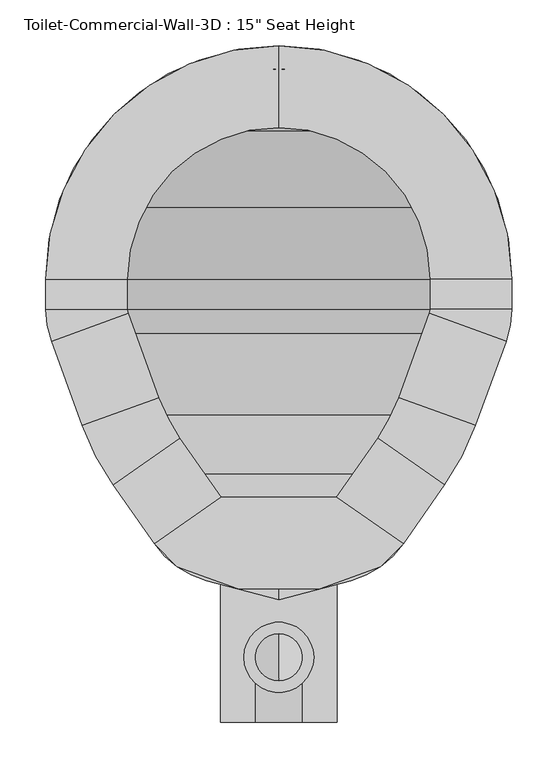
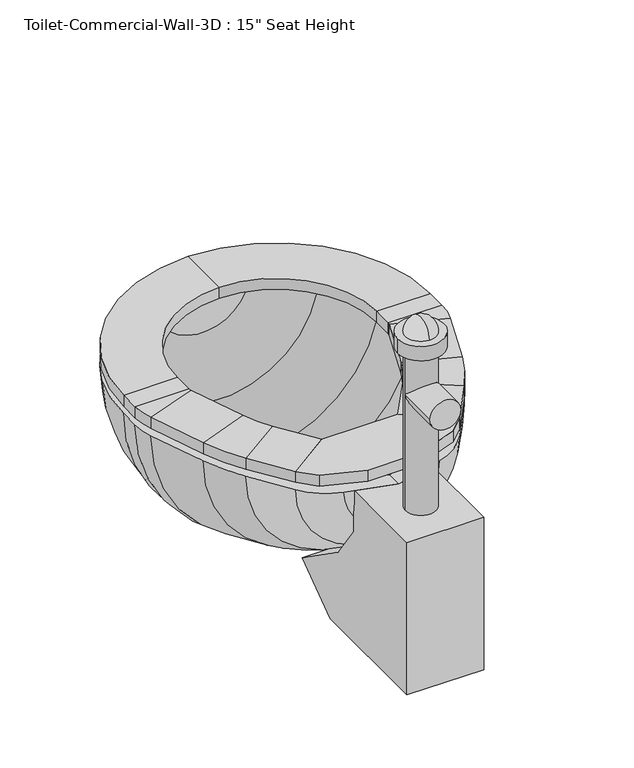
"""IFC4 building model written with IfcOpenShell, lengths in millimetres: flow terminal geometry."""

import ifcopenshell
import ifcopenshell.guid

model = None  # the IFC model being written
_history = None  # IfcOwnerHistory: only IFC2X3 demands one
_inside = {}  # id of a spatial element -> (the spatial element, [elements in it])
_under = {}  # id of a project, library or spatial element -> (it, [spatial elements below it])
_declared = {}  # id of a project -> (the project, [libraries it declares])
_typed = {}  # id of a type object -> (the type object, [elements of that type])
_made_of = {}  # id of a material, layer set ... -> (it, [elements and type objects made of it])


def new_model(schema):
    """Start an empty IFC model of exactly this schema.

    Asked for "IFC4X3", IfcOpenShell would pick the latest addendum, in which some entities
    have other attributes; the version numbers below select the first issue.
    IFC2X3 requires an IfcOwnerHistory on every rooted entity: one is made here for all.
    """
    global model, _history
    if schema == "IFC4X3":
        model = ifcopenshell.file(schema_version=(4, 3, 0, 0))
    else:
        model = ifcopenshell.file(schema=schema)
    _inside.clear()
    _under.clear()
    _declared.clear()
    _typed.clear()
    _made_of.clear()
    _history = None
    if model.schema == "IFC2X3":
        org = make("IfcOrganization", Name="unknown")
        user = make(
            "IfcPersonAndOrganization",
            ThePerson=make("IfcPerson", FamilyName="unknown"),
            TheOrganization=org,
        )
        app = make(
            "IfcApplication",
            ApplicationDeveloper=org,
            Version="unknown",
            ApplicationFullName="unknown",
            ApplicationIdentifier="unknown",
        )
        _history = make(
            "IfcOwnerHistory",
            OwningUser=user,
            OwningApplication=app,
            ChangeAction="ADDED",
            CreationDate=0,
        )
    return model


def make(cls, **values):
    """One entity of the class cls with the attributes given. An attribute that is None is left unset."""
    return model.create_entity(
        cls, **{name: value for name, value in values.items() if value is not None}
    )


def rooted(cls, **values):
    """An entity with a GlobalId (a new one), such as an element, a storey or a relation."""
    return make(cls, GlobalId=ifcopenshell.guid.new(), OwnerHistory=_history, **values)


def si_unit(unit_type, name, prefix=None):
    """IfcSIUnit, for example si_unit("LENGTHUNIT", "METRE", prefix="MILLI")."""
    return make("IfcSIUnit", UnitType=unit_type, Prefix=prefix, Name=name)


def assignment(units):
    """IfcUnitAssignment: the units of a project."""
    return None if units is None else make("IfcUnitAssignment", Units=units)


def point(xyz):
    """IfcCartesianPoint."""
    return None if xyz is None else make("IfcCartesianPoint", Coordinates=xyz)


def direction(xyz):
    """IfcDirection."""
    return None if xyz is None else make("IfcDirection", DirectionRatios=xyz)


def frame(location, z_axis=None, x_axis=None):
    """IfcAxis2Placement3D, a coordinate frame: its origin and axes. An axis left out is left unset."""
    return make(
        "IfcAxis2Placement3D",
        Location=point(location),
        Axis=direction(z_axis),
        RefDirection=direction(x_axis),
    )


def frame_2d(location, x_axis=None):
    """IfcAxis2Placement2D, a coordinate frame in the plane: its origin and x axis."""
    return make(
        "IfcAxis2Placement2D", Location=point(location), RefDirection=direction(x_axis)
    )


def origin():
    """The frame at (0, 0, 0) with its axes left unset."""
    return frame((0.0, 0.0, 0.0))


def place(relative_to, where):
    """IfcLocalPlacement: puts the frame where relative to a parent placement (None: the world)."""
    return make(
        "IfcLocalPlacement", PlacementRelTo=relative_to, RelativePlacement=where
    )


def context(
    kind, dimensions, precision=None, world=None, true_north=None, identifier=None
):
    """IfcGeometricRepresentationContext, for example the 3D "Model" context."""
    return make(
        "IfcGeometricRepresentationContext",
        ContextIdentifier=identifier,
        ContextType=kind,
        CoordinateSpaceDimension=dimensions,
        Precision=precision,
        WorldCoordinateSystem=world,
        TrueNorth=true_north,
    )


def project(units=None, contexts=None):
    """IfcProject with its units and contexts."""
    return rooted(
        "IfcProject",
        Name="project",
        RepresentationContexts=contexts,
        UnitsInContext=assignment(units),
    )


def spatial(cls, under=None, at=None, **own):
    """A site, building, storey or space (cls), placed at a placement, below another one or the project."""
    s = rooted(cls, ObjectPlacement=at, **own)
    if under is not None:
        _under.setdefault(under.id(), (under, []))[1].append(s)
    return s


def polyline(points):
    """IfcPolyline through the points."""
    return make("IfcPolyline", Points=[point(p) for p in points])


def circle_curve(where, radius):
    """IfcCircle in the frame where."""
    return make("IfcCircle", Position=where, Radius=radius)


def ellipse_curve(where, semi_axis1, semi_axis2):
    """IfcEllipse in the frame where."""
    return make(
        "IfcEllipse", Position=where, SemiAxis1=semi_axis1, SemiAxis2=semi_axis2
    )


def trimmed(basis, trim1, trim2, sense, master):
    """IfcTrimmedCurve: the piece of a basis curve between two trims."""
    return make(
        "IfcTrimmedCurve",
        BasisCurve=basis,
        Trim1=trim1,
        Trim2=trim2,
        SenseAgreement=sense,
        MasterRepresentation=master,
    )


def segment(curve, same_sense, transition):
    """IfcCompositeCurveSegment."""
    return make(
        "IfcCompositeCurveSegment",
        Transition=transition,
        SameSense=same_sense,
        ParentCurve=curve,
    )


def composite_curve(segments, self_intersect=None):
    """IfcCompositeCurve: segments joined end to end."""
    return make("IfcCompositeCurve", Segments=segments, SelfIntersect=self_intersect)


def outline(outer, holes=None, kind="AREA"):
    """IfcArbitraryClosedProfileDef: a profile drawn as a closed curve; with holes, ...WithVoids."""
    if holes is None:
        return make("IfcArbitraryClosedProfileDef", ProfileType=kind, OuterCurve=outer)
    return make(
        "IfcArbitraryProfileDefWithVoids",
        ProfileType=kind,
        OuterCurve=outer,
        InnerCurves=holes,
    )


def extrude(swept, where, along, depth):
    """IfcExtrudedAreaSolid: the profile swept, set in the frame where, extruded along a direction by depth."""
    return make(
        "IfcExtrudedAreaSolid",
        SweptArea=swept,
        Position=where,
        ExtrudedDirection=direction(along),
        Depth=depth,
    )


def shape(context_of_items, identifier, shape_type, items):
    """IfcShapeRepresentation: the items that make up one representation, for example the "Body"."""
    return make(
        "IfcShapeRepresentation",
        ContextOfItems=context_of_items,
        RepresentationIdentifier=identifier,
        RepresentationType=shape_type,
        Items=items,
    )


def source(mapping_origin, context_of_items, identifier, shape_type, items):
    """IfcRepresentationMap: a shape defined once, which mapped items show again and again."""
    return make(
        "IfcRepresentationMap",
        MappingOrigin=mapping_origin,
        MappedRepresentation=shape(context_of_items, identifier, shape_type, items),
    )


def transform(
    local_origin,
    x_axis=None,
    y_axis=None,
    z_axis=None,
    scale=None,
    scale2=None,
    scale3=None,
    uniform=True,
):
    """IfcCartesianTransformationOperator3D, or its non-uniform kind. x_axis, y_axis, z_axis: its Axis1, 2, 3."""
    if uniform:
        return make(
            "IfcCartesianTransformationOperator3D",
            Axis1=direction(x_axis),
            Axis2=direction(y_axis),
            LocalOrigin=point(local_origin),
            Scale=scale,
            Axis3=direction(z_axis),
        )
    return make(
        "IfcCartesianTransformationOperator3DnonUniform",
        Axis1=direction(x_axis),
        Axis2=direction(y_axis),
        LocalOrigin=point(local_origin),
        Scale=scale,
        Axis3=direction(z_axis),
        Scale2=scale2,
        Scale3=scale3,
    )


def mapped(mapping_source, mapping_target):
    """IfcMappedItem: shows the shape of a source again, moved by a transform."""
    return make(
        "IfcMappedItem", MappingSource=mapping_source, MappingTarget=mapping_target
    )


def made_of(thing, what):
    """Note that an element or type object is made of a material, layer set ...; save() writes the relation."""
    if what is not None:
        _made_of.setdefault(what.id(), (what, []))[1].append(thing)
    return thing


def element(
    cls,
    number,
    at=None,
    inside=None,
    cuts=None,
    type_object=None,
    material=None,
    context=None,
    identifier="Body",
    shape_type=None,
    held_by="IfcProductDefinitionShape",
    body=None,
    shapes=None,
    **own,
):
    """One element of the class cls, such as IfcWall. Its Tag is "e" and its number.

    at: its placement. inside: the storey or other place that contains it. cuts: it is an
    opening in that element (IfcRelVoidsElement). A single representation is given by context,
    identifier, shape_type and body (its items); several are given by shapes. held_by: the class
    of the entity that holds the representations. save() writes the other relations.
    """
    e = rooted(cls, Tag="e%d" % number, ObjectPlacement=at, **own)
    if body is not None:
        shapes = [shape(context, identifier, shape_type, body)]
    if shapes is not None:
        e.Representation = make(held_by, Representations=shapes)
    if inside is not None:
        _inside.setdefault(inside.id(), (inside, []))[1].append(e)
    if cuts is not None:
        rooted(
            "IfcRelVoidsElement", RelatingBuildingElement=cuts, RelatedOpeningElement=e
        )
    if type_object is not None:
        _typed.setdefault(type_object.id(), (type_object, []))[1].append(e)
    return made_of(e, material)


def aggregate(whole, parts):
    """IfcRelAggregates: a whole, such as a stair, and the parts it consists of."""
    return rooted("IfcRelAggregates", RelatingObject=whole, RelatedObjects=parts)


def save(model, path):
    """Write the relations noted so far, then the file.

    IfcRelAggregates (storeys below a building ...), IfcRelContainedInSpatialStructure (elements
    in a storey), IfcRelDefinesByType, IfcRelAssociatesMaterial and IfcRelDeclares: one each for
    every whole, place, type object, material and project.
    """
    for whole, parts in _under.values():
        aggregate(whole, parts)
    for where, things in _inside.values():
        rooted(
            "IfcRelContainedInSpatialStructure",
            RelatedElements=things,
            RelatingStructure=where,
        )
    for kind, things in _typed.values():
        rooted("IfcRelDefinesByType", RelatedObjects=things, RelatingType=kind)
    for what, things in _made_of.values():
        rooted("IfcRelAssociatesMaterial", RelatedObjects=things, RelatingMaterial=what)
    for by, libraries in _declared.values():
        rooted("IfcRelDeclares", RelatingContext=by, RelatedDefinitions=libraries)
    model.write(path)


def plane_surface(at):
    """IfcPlane: the flat surface through the origin of the frame at, square to its z axis."""
    return make("IfcPlane", Position=at)


def cylinder_surface(at, radius):
    """IfcCylindricalSurface: all points at the distance radius from the z axis of the frame at."""
    return make("IfcCylindricalSurface", Position=at, Radius=radius)


def revolved_surface(curve, axis_point, axis_direction):
    """IfcSurfaceOfRevolution: the curve turned about the line through axis_point along axis_direction."""
    return make(
        "IfcSurfaceOfRevolution",
        SweptCurve=make("IfcArbitraryOpenProfileDef", ProfileType="CURVE", Curve=curve),
        AxisPosition=make("IfcAxis1Placement", Location=point(axis_point), Axis=direction(axis_direction)),
    )


def advanced_brep(points, edges, surfaces, faces):
    """IfcAdvancedBrep: a solid bounded by faces that lie on surfaces and meet in shared edges.

    An edge is (start, end): straight between two places in points (the first is 0);
    or (start, end, curve); or (start, end, curve, False) where it runs against its curve.
    A face is (place in surfaces, loops), or (place, loops, False) where it looks against
    its surface's normal. A loop lists edges by number (the first is 1), with a minus sign
    where the edge is run from its end to its start. The first loop is the outer one.
    """
    corners = [point(p) for p in points]
    vertices = [make("IfcVertexPoint", VertexGeometry=c) for c in corners]
    made = []
    for start, end, *more in edges:
        made.append(
            make(
                "IfcEdgeCurve",
                EdgeStart=vertices[start],
                EdgeEnd=vertices[end],
                EdgeGeometry=more[0] if more else make("IfcPolyline", Points=[corners[start], corners[end]]),
                SameSense=more[1] if len(more) > 1 else True,
            )
        )
    hull = []
    for where, loops, *sense in faces:
        bounds = []
        for j, loop in enumerate(loops):
            ring = [make("IfcOrientedEdge", EdgeElement=made[abs(k) - 1], Orientation=k > 0) for k in loop]
            bounds.append(
                make(
                    "IfcFaceOuterBound" if j == 0 else "IfcFaceBound",
                    Bound=make("IfcEdgeLoop", EdgeList=ring),
                    Orientation=True,
                )
            )
        hull.append(make("IfcAdvancedFace", Bounds=bounds, FaceSurface=surfaces[where], SameSense=sense[0] if sense else True))
    return make("IfcAdvancedBrep", Outer=make("IfcClosedShell", CfsFaces=hull))


def flow_terminal_35d0ae41(model_context):
    return source(origin(), model_context, "Body", "SolidModel", [
        extrude(outline(polyline([(467.7541169, 375.2097495), (540.5767337, 324.2188043), (515.6262519, 299.2683226), (449.563909, 275.2235961), (360.2423986, 275.2235961), (294.1800557, 299.2683226), (269.229574, 324.2188043), (342.0521907, 375.2097495), (467.7541169, 375.2097495)])), frame((0.0, 0.0, 355.6), z_axis=(0.0, 0.0, 1.0), x_axis=(1.0, 0.0, 0.0)), (0.0, 0.0, 1.0), 19.05),
        advanced_brep(
        [(467.7541169, 375.2097495, 355.6), (540.5767337, 324.2188043, 355.6), (540.5767337, 324.2188043, 374.65), (467.7541169, 375.2097495, 374.65), (512.8583992, 439.6253403, 355.6), (585.6810159, 388.6343951, 355.6), (585.6810159, 388.6343951, 374.65), (512.8583992, 439.6253403, 374.65), (619.360053, 453.3312234, 355.6), (535.821379, 483.7368141, 355.6), (619.360053, 453.3312234, 374.65), (535.821379, 483.7368141, 374.65), (569.2372501, 575.5461654, 355.6), (652.7759241, 545.1405747, 355.6), (652.7759241, 545.1405747, 374.65), (569.2372501, 575.5461654, 374.65), (658.9031538, 579.8898212, 355.6), (570.0031538, 579.8898212, 355.6), (658.9031538, 579.8898212, 374.65), (570.0031538, 579.8898212, 374.65), (570.0031538, 612.775, 355.6), (658.9031538, 612.775, 355.6), (658.9031538, 612.775, 374.65), (570.0031538, 612.775, 374.65), (404.9031538, 866.775, 355.6), (404.9031538, 777.875, 355.6), (404.9031538, 866.775, 374.65), (404.9031538, 777.875, 374.65), (150.9031538, 612.775, 355.6), (239.8031538, 612.775, 355.6), (150.9031538, 612.775, 374.65), (239.8031538, 612.775, 374.65), (239.8031538, 579.8898212, 355.6), (150.9031538, 579.8898212, 355.6), (150.9031538, 579.8898212, 374.65), (239.8031538, 579.8898212, 374.65), (157.0303835, 545.1405747, 355.6), (240.5690575, 575.5461654, 355.6), (157.0303835, 545.1405747, 374.65), (240.5690575, 575.5461654, 374.65), (273.9849286, 483.7368141, 355.6), (190.4462546, 453.3312234, 355.6), (190.4462546, 453.3312234, 374.65), (273.9849286, 483.7368141, 374.65), (224.1252917, 388.6343951, 355.6), (296.9479084, 439.6253403, 355.6), (224.1252917, 388.6343951, 374.65), (296.9479084, 439.6253403, 374.65), (342.0521907, 375.2097495, 355.6), (342.0521907, 375.2097495, 374.65), (269.229574, 324.2188043, 374.65), (269.229574, 324.2188043, 355.6)],
        [
            (0, 1),
            (1, 2),
            (2, 3),
            (3, 0),
            (0, 4),
            (4, 5),
            (5, 1),
            (5, 6),
            (6, 2),
            (6, 7),
            (7, 3),
            (7, 4),
            (8, 5, circle_curve(frame((356.8099347, 548.8916514, 355.6), z_axis=(0.0, 0.0, -1.0), x_axis=(0.8191520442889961, -0.5735764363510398, 0.0)), 279.4)),
            (4, 9, circle_curve(frame((356.8099347, 548.8916514, 355.6), z_axis=(0.0, 0.0, 1.0), x_axis=(0.8191520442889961, -0.5735764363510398, 0.0)), 190.5)),
            (9, 8),
            (10, 6, circle_curve(frame((356.8099347, 548.8916514, 374.65), z_axis=(0.0, 0.0, -1.0), x_axis=(0.8191520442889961, -0.5735764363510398, 0.0)), 279.4)),
            (8, 10),
            (11, 7, circle_curve(frame((356.8099347, 548.8916514, 374.65), z_axis=(0.0, 0.0, -1.0), x_axis=(0.8191520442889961, -0.5735764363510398, 0.0)), 190.5)),
            (10, 11),
            (11, 9),
            (9, 12),
            (12, 13),
            (13, 8),
            (13, 14),
            (14, 10),
            (14, 15),
            (15, 11),
            (15, 12),
            (16, 13, circle_curve(frame((557.3031538, 579.8898212, 355.6), z_axis=(0.0, 0.0, -1.0), x_axis=(0.9396926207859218, -0.34202014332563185, 0.0)), 101.6)),
            (12, 17, circle_curve(frame((557.3031538, 579.8898212, 355.6), z_axis=(0.0, 0.0, 1.0), x_axis=(0.9396926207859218, -0.34202014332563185, 0.0)), 12.7)),
            (17, 16),
            (18, 14, circle_curve(frame((557.3031538, 579.8898212, 374.65), z_axis=(0.0, 0.0, -1.0), x_axis=(0.9396926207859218, -0.34202014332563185, 0.0)), 101.6)),
            (16, 18),
            (19, 15, circle_curve(frame((557.3031538, 579.8898212, 374.65), z_axis=(0.0, 0.0, -1.0), x_axis=(0.9396926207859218, -0.34202014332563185, 0.0)), 12.7)),
            (18, 19),
            (19, 17),
            (17, 20),
            (20, 21),
            (21, 16),
            (21, 22),
            (22, 18),
            (22, 23),
            (23, 19),
            (23, 20),
            (24, 21, circle_curve(frame((404.9031538, 612.775, 355.6), z_axis=(0.0, 0.0, -1.0), x_axis=(1.0, 0.0, 0.0)), 254.0)),
            (20, 25, circle_curve(frame((404.9031538, 612.775, 355.6), z_axis=(0.0, 0.0, 1.0), x_axis=(1.0, 0.0, 0.0)), 165.1)),
            (25, 24),
            (26, 22, circle_curve(frame((404.9031538, 612.775, 374.65), z_axis=(0.0, 0.0, -1.0), x_axis=(1.0, 0.0, 0.0)), 254.0)),
            (24, 26),
            (27, 23, circle_curve(frame((404.9031538, 612.775, 374.65), z_axis=(0.0, 0.0, -1.0), x_axis=(1.0, 0.0, 0.0)), 165.1)),
            (26, 27),
            (27, 25),
            (28, 24, circle_curve(frame((404.9031538, 612.775, 355.6), z_axis=(0.0, 0.0, -1.0), x_axis=(0.0, 1.0, 0.0)), 254.0)),
            (25, 29, circle_curve(frame((404.9031538, 612.775, 355.6), z_axis=(0.0, 0.0, 1.0), x_axis=(0.0, 1.0, 0.0)), 165.1)),
            (29, 28),
            (30, 26, circle_curve(frame((404.9031538, 612.775, 374.65), z_axis=(0.0, 0.0, -1.0), x_axis=(0.0, 1.0, 0.0)), 254.0)),
            (28, 30),
            (31, 27, circle_curve(frame((404.9031538, 612.775, 374.65), z_axis=(0.0, 0.0, -1.0), x_axis=(0.0, 1.0, 0.0)), 165.1)),
            (30, 31),
            (31, 29),
            (29, 32),
            (32, 33),
            (33, 28),
            (33, 34),
            (34, 30),
            (34, 35),
            (35, 31),
            (35, 32),
            (36, 33, circle_curve(frame((252.5031538, 579.8898212, 355.6), z_axis=(0.0, 0.0, -1.0), x_axis=(-1.0, 0.0, 0.0)), 101.6)),
            (32, 37, circle_curve(frame((252.5031538, 579.8898212, 355.6), z_axis=(0.0, 0.0, 1.0), x_axis=(-1.0, 0.0, 0.0)), 12.7)),
            (37, 36),
            (38, 34, circle_curve(frame((252.5031538, 579.8898212, 374.65), z_axis=(0.0, 0.0, -1.0), x_axis=(-1.0, 0.0, 0.0)), 101.6)),
            (36, 38),
            (39, 35, circle_curve(frame((252.5031538, 579.8898212, 374.65), z_axis=(0.0, 0.0, -1.0), x_axis=(-1.0, 0.0, 0.0)), 12.7)),
            (38, 39),
            (39, 37),
            (37, 40),
            (40, 41),
            (41, 36),
            (41, 42),
            (42, 38),
            (42, 43),
            (43, 39),
            (43, 40),
            (44, 41, circle_curve(frame((452.9963729, 548.8916514, 355.6), z_axis=(0.0, 0.0, -1.0), x_axis=(-0.9396926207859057, -0.3420201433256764, 0.0)), 279.4)),
            (40, 45, circle_curve(frame((452.9963729, 548.8916514, 355.6), z_axis=(0.0, 0.0, 1.0), x_axis=(-0.9396926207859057, -0.3420201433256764, 0.0)), 190.5)),
            (45, 44),
            (46, 42, circle_curve(frame((452.9963729, 548.8916514, 374.65), z_axis=(0.0, 0.0, -1.0), x_axis=(-0.9396926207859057, -0.3420201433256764, 0.0)), 279.4)),
            (44, 46),
            (47, 43, circle_curve(frame((452.9963729, 548.8916514, 374.65), z_axis=(0.0, 0.0, -1.0), x_axis=(-0.9396926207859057, -0.3420201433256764, 0.0)), 190.5)),
            (46, 47),
            (47, 45),
            (48, 49),
            (49, 50),
            (50, 51),
            (51, 48),
            (45, 48),
            (51, 44),
            (50, 46),
            (49, 47),
        ],
        [
            plane_surface(frame((540.5767337, 324.2188043, 437.2995365), z_axis=(-0.573576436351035, -0.8191520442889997, 0.0), x_axis=(0.8191520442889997, -0.573576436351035, 0.0))),
            plane_surface(frame((467.7541169, 375.2097495, 355.6), z_axis=(0.0, 0.0, -1.0), x_axis=(0.5735764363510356, 0.8191520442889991, 0.0))),
            plane_surface(frame((540.5767337, 324.2188043, 355.6), z_axis=(0.8191520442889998, -0.5735764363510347, 0.0), x_axis=(0.5735764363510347, 0.8191520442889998, 0.0))),
            plane_surface(frame((540.5767337, 324.2188043, 374.65), z_axis=(0.0, 0.0, 1.0), x_axis=(0.5735764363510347, 0.8191520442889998, 0.0))),
            plane_surface(frame((467.7541169, 375.2097495, 374.65), z_axis=(-0.8191520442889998, 0.5735764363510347, 0.0), x_axis=(0.5735764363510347, 0.8191520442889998, 0.0))),
            plane_surface(frame((356.8099347, 548.8916514, 355.6), z_axis=(0.0, 0.0, -1.0000000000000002), x_axis=(0.8191520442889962, -0.5735764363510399, 0.0))),
            cylinder_surface(frame((356.8099347, 548.8916514, 342.9), z_axis=(0.0, 0.0, 1.0), x_axis=(0.8191520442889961, -0.5735764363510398, 0.0)), 279.4),
            plane_surface(frame((356.8099347, 548.8916514, 374.65), z_axis=(0.0, 0.0, 1.0000000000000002), x_axis=(0.8191520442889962, -0.5735764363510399, 0.0))),
            revolved_surface(polyline([(512.8583991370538, 439.6253402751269, 374.65), (512.8583991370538, 439.6253402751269, 355.6)]), (356.8099347, 548.8916514, 342.9), (0.0, 0.0, 1.0)),
            plane_surface(frame((535.821379, 483.7368141, 355.6), z_axis=(0.0, 0.0, -1.0), x_axis=(0.3420201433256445, 0.9396926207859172, 0.0))),
            plane_surface(frame((619.360053, 453.3312234, 355.6), z_axis=(0.9396926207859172, -0.3420201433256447, 0.0), x_axis=(0.3420201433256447, 0.9396926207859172, 0.0))),
            plane_surface(frame((619.360053, 453.3312234, 374.65), z_axis=(0.0, 0.0, 1.0000000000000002), x_axis=(0.3420201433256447, 0.9396926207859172, 0.0))),
            plane_surface(frame((535.821379, 483.7368141, 374.65), z_axis=(-0.9396926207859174, 0.3420201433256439, 0.0), x_axis=(0.3420201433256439, 0.9396926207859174, 0.0))),
            plane_surface(frame((557.3031538, 579.8898212, 355.6), z_axis=(0.0, 0.0, -1.0000000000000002), x_axis=(0.9396926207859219, -0.3420201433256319, 0.0))),
            cylinder_surface(frame((557.3031538, 579.8898212, 342.9), z_axis=(0.0, 0.0, 1.0), x_axis=(0.9396926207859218, -0.34202014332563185, 0.0)), 101.6),
            plane_surface(frame((557.3031538, 579.8898212, 374.65), z_axis=(0.0, 0.0, 1.0000000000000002), x_axis=(0.9396926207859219, -0.3420201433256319, 0.0))),
            revolved_surface(polyline([(569.2372500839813, 575.5461653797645, 374.65), (569.2372500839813, 575.5461653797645, 355.6)]), (557.3031538, 579.8898212, 342.9), (0.0, 0.0, 1.0)),
            plane_surface(frame((570.0031538, 579.8898212, 355.6), z_axis=(0.0, 0.0, -1.0), x_axis=(0.0, 1.0, 0.0))),
            plane_surface(frame((658.9031538, 579.8898212, 355.6), z_axis=(1.0, 0.0, 0.0), x_axis=(0.0, 1.0, 0.0))),
            plane_surface(frame((658.9031538, 579.8898212, 374.65), z_axis=(0.0, 0.0, 1.0), x_axis=(0.0, 1.0, 0.0))),
            plane_surface(frame((570.0031538, 579.8898212, 374.65), z_axis=(-1.0, 0.0, 0.0), x_axis=(0.0, 1.0, 0.0))),
            plane_surface(frame((404.9031538, 612.775, 355.6), z_axis=(0.0, 0.0, -1.0), x_axis=(1.0, 0.0, 0.0))),
            cylinder_surface(frame((404.9031538, 612.775, 342.9), z_axis=(0.0, 0.0, 1.0), x_axis=(1.0, 0.0, 0.0)), 254.0),
            plane_surface(frame((404.9031538, 612.775, 374.65), z_axis=(0.0, 0.0, 1.0), x_axis=(1.0, 0.0, 0.0))),
            revolved_surface(polyline([(570.0031538, 612.775, 374.65), (570.0031538, 612.775, 355.6)]), (404.9031538, 612.775, 342.9), (0.0, 0.0, 1.0)),
            plane_surface(frame((404.9031538, 612.775, 355.6), z_axis=(0.0, 0.0, -1.0), x_axis=(0.0, 1.0, 0.0))),
            cylinder_surface(frame((404.9031538, 612.775, 342.9), z_axis=(0.0, 0.0, 1.0), x_axis=(0.0, 1.0, 0.0)), 254.0),
            plane_surface(frame((404.9031538, 612.775, 374.65), z_axis=(0.0, 0.0, 1.0), x_axis=(0.0, 1.0, 0.0))),
            revolved_surface(polyline([(404.9031538, 777.875, 374.65), (404.9031538, 777.875, 355.6)]), (404.9031538, 612.775, 342.9), (0.0, 0.0, 1.0)),
            plane_surface(frame((239.8031538, 612.775, 355.6), z_axis=(0.0, 0.0, -1.0), x_axis=(0.0, -1.0, 0.0))),
            plane_surface(frame((150.9031538, 612.775, 355.6), z_axis=(-1.0, 0.0, 0.0), x_axis=(0.0, -1.0, 0.0))),
            plane_surface(frame((150.9031538, 612.775, 374.65), z_axis=(0.0, 0.0, 1.0), x_axis=(0.0, -1.0, 0.0))),
            plane_surface(frame((239.8031538, 612.775, 374.65), z_axis=(1.0, 0.0, 0.0), x_axis=(0.0, -1.0, 0.0))),
            plane_surface(frame((252.5031538, 579.8898212, 355.6), z_axis=(0.0, 0.0, -1.0), x_axis=(-1.0, 0.0, 0.0))),
            cylinder_surface(frame((252.5031538, 579.8898212, 342.9), z_axis=(0.0, 0.0, 1.0), x_axis=(-1.0, 0.0, 0.0)), 101.6),
            plane_surface(frame((252.5031538, 579.8898212, 374.65), z_axis=(0.0, 0.0, 1.0), x_axis=(-1.0, 0.0, 0.0))),
            revolved_surface(polyline([(239.80315380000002, 579.8898212, 374.65), (239.80315380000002, 579.8898212, 355.6)]), (252.5031538, 579.8898212, 342.9), (0.0, 0.0, 1.0)),
            plane_surface(frame((240.5690575, 575.5461654, 355.6), z_axis=(0.0, 0.0, -1.0000000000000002), x_axis=(0.3420201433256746, -0.9396926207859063, 0.0))),
            plane_surface(frame((157.0303835, 545.1405747, 355.6), z_axis=(-0.9396926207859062, -0.3420201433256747, 0.0), x_axis=(0.3420201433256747, -0.9396926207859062, 0.0))),
            plane_surface(frame((157.0303835, 545.1405747, 374.65), z_axis=(0.0, 0.0, 1.0), x_axis=(0.3420201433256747, -0.9396926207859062, 0.0))),
            plane_surface(frame((240.5690575, 575.5461654, 374.65), z_axis=(0.9396926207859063, 0.3420201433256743, 0.0), x_axis=(0.3420201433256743, -0.9396926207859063, 0.0))),
            plane_surface(frame((452.9963729, 548.8916514, 355.6), z_axis=(0.0, 0.0, -1.0), x_axis=(-0.9396926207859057, -0.3420201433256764, 0.0))),
            cylinder_surface(frame((452.9963729, 548.8916514, 342.9), z_axis=(0.0, 0.0, 1.0), x_axis=(-0.9396926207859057, -0.3420201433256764, 0.0)), 279.4),
            plane_surface(frame((452.9963729, 548.8916514, 374.65), z_axis=(0.0, 0.0, 1.0), x_axis=(-0.9396926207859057, -0.3420201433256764, 0.0))),
            revolved_surface(polyline([(273.9849286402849, 483.73681409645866, 374.65), (273.9849286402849, 483.73681409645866, 355.6)]), (452.9963729, 548.8916514, 342.9), (0.0, 0.0, 1.0)),
            plane_surface(frame((269.229574, 324.2188043, 248.5004635), z_axis=(0.573576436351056, -0.8191520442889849, 0.0), x_axis=(0.8191520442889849, 0.573576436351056, 0.0))),
            plane_surface(frame((296.9479084, 439.6253403, 355.6), z_axis=(0.0, 0.0, -1.0), x_axis=(0.573576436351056, -0.8191520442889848, 0.0))),
            plane_surface(frame((224.1252917, 388.6343951, 355.6), z_axis=(-0.8191520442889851, -0.5735764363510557, 0.0), x_axis=(0.5735764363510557, -0.8191520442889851, 0.0))),
            plane_surface(frame((224.1252917, 388.6343951, 374.65), z_axis=(0.0, 0.0, 1.0), x_axis=(0.5735764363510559, -0.8191520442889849, 0.0))),
            plane_surface(frame((296.9479084, 439.6253403, 374.65), z_axis=(0.8191520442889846, 0.5735764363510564, 0.0), x_axis=(0.5735764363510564, -0.8191520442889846, 0.0))),
        ],
        [
            (0, [[1, 2, 3, 4]]),
            (1, [[-1, 5, 6, 7]]),
            (2, [[-2, -7, 8, 9]]),
            (3, [[-3, -9, 10, 11]]),
            (4, [[-4, -11, 12, -5]]),
            (5, [[13, -6, 14, 15]]),
            (6, [[16, -8, -13, 17]]),
            (7, [[18, -10, -16, 19]]),
            (8, [[-14, -12, -18, 20]]),
            (9, [[-15, 21, 22, 23]]),
            (10, [[-17, -23, 24, 25]]),
            (11, [[-19, -25, 26, 27]]),
            (12, [[-20, -27, 28, -21]]),
            (13, [[29, -22, 30, 31]]),
            (14, [[32, -24, -29, 33]]),
            (15, [[34, -26, -32, 35]]),
            (16, [[-30, -28, -34, 36]]),
            (17, [[-31, 37, 38, 39]]),
            (18, [[-33, -39, 40, 41]]),
            (19, [[-35, -41, 42, 43]]),
            (20, [[-36, -43, 44, -37]]),
            (21, [[45, -38, 46, 47]]),
            (22, [[48, -40, -45, 49]]),
            (23, [[50, -42, -48, 51]]),
            (24, [[-46, -44, -50, 52]]),
            (25, [[53, -47, 54, 55]]),
            (26, [[56, -49, -53, 57]]),
            (27, [[58, -51, -56, 59]]),
            (28, [[-54, -52, -58, 60]]),
            (29, [[-55, 61, 62, 63]]),
            (30, [[-57, -63, 64, 65]]),
            (31, [[-59, -65, 66, 67]]),
            (32, [[-60, -67, 68, -61]]),
            (33, [[69, -62, 70, 71]]),
            (34, [[72, -64, -69, 73]]),
            (35, [[74, -66, -72, 75]]),
            (36, [[-70, -68, -74, 76]]),
            (37, [[-71, 77, 78, 79]]),
            (38, [[-73, -79, 80, 81]]),
            (39, [[-75, -81, 82, 83]]),
            (40, [[-76, -83, 84, -77]]),
            (41, [[85, -78, 86, 87]]),
            (42, [[88, -80, -85, 89]]),
            (43, [[90, -82, -88, 91]]),
            (44, [[-86, -84, -90, 92]]),
            (45, [[93, 94, 95, 96]]),
            (46, [[-87, 97, -96, 98]]),
            (47, [[-89, -98, -95, 99]]),
            (48, [[-91, -99, -94, 100]]),
            (49, [[-92, -100, -93, -97]]),
        ],
    ),
        advanced_brep(
        [(491.7762702, 851.4569257, 342.9), (404.9031538, 866.775, 342.9), (404.9031538, 841.375, 342.9), (483.0889586, 827.5887331, 342.9), (566.547764, 774.4196102, 342.9), (619.7168869, 690.9608048, 342.9), (633.5031538, 612.775, 342.9), (633.5031538, 579.8898212, 342.9), (628.9077315, 553.8278863, 342.9), (596.6355667, 465.1608422, 342.9), (562.9565296, 400.4640139, 342.9), (525.0728964, 346.3605786, 342.9), (468.1430637, 306.4978806, 342.9), (404.9031538, 289.5527978, 342.9), (404.9031538, 263.2567829, 342.9), (483.6469009, 284.3561063, 342.9), (540.5767337, 324.2188043, 342.9), (585.6810159, 388.6343951, 342.9), (619.360053, 453.3312234, 342.9), (652.7759241, 545.1405747, 342.9), (658.9031538, 579.8898212, 342.9), (658.9031538, 612.775, 342.9), (643.5850795, 699.6481164, 342.9), (584.5082762, 792.3801224, 342.9), (318.0300374, 851.4569257, 342.9), (225.2980314, 792.3801224, 342.9), (166.2212281, 699.6481164, 342.9), (150.9031538, 612.775, 342.9), (150.9031538, 579.8898212, 342.9), (157.0303835, 545.1405747, 342.9), (190.4462546, 453.3312234, 342.9), (224.1252917, 388.6343951, 342.9), (269.229574, 324.2188043, 342.9), (326.1594067, 284.3561063, 342.9), (341.663244, 306.4978806, 342.9), (284.7334112, 346.3605786, 342.9), (246.849778, 400.4640139, 342.9), (213.1707409, 465.1608422, 342.9), (180.8985761, 553.8278863, 342.9), (176.3031538, 579.8898212, 342.9), (176.3031538, 612.775, 342.9), (190.0894207, 690.9608048, 342.9), (243.2585436, 774.4196102, 342.9), (326.7173491, 827.5887331, 342.9)],
        [
            (0, 1, circle_curve(frame((404.9031538, 612.775, 342.9), z_axis=(0.0, 0.0, 1.0), x_axis=(1.0, 0.0, 0.0)), 254.0)),
            (1, 2),
            (2, 3, circle_curve(frame((404.9031538, 612.775, 342.9), z_axis=(0.0, 0.0, -1.0), x_axis=(1.0, 0.0, 0.0)), 228.6)),
            (3, 4, circle_curve(frame((404.9031538, 612.775, 342.9), z_axis=(0.0, 0.0, -1.0), x_axis=(1.0, 0.0, 0.0)), 228.6)),
            (4, 5, circle_curve(frame((404.9031538, 612.775, 342.9), z_axis=(0.0, 0.0, -1.0), x_axis=(1.0, 0.0, 0.0)), 228.6)),
            (5, 6, circle_curve(frame((404.9031538, 612.775, 342.9), z_axis=(0.0, 0.0, -1.0), x_axis=(1.0, 0.0, 0.0)), 228.6)),
            (6, 7),
            (7, 8, circle_curve(frame((557.3031538, 579.8898212, 342.9), z_axis=(0.0, 0.0, -1.0), x_axis=(1.0, 0.0, 0.0)), 76.2)),
            (8, 9),
            (9, 10, circle_curve(frame((334.0854485, 560.7212703, 342.9), z_axis=(0.0, 0.0, -1.0), x_axis=(1.0, 0.0, 0.0)), 279.4)),
            (10, 11),
            (11, 12, circle_curve(frame((441.8470487, 404.6359446, 342.9), z_axis=(0.0, 0.0, -1.0), x_axis=(1.0, 0.0, 0.0)), 101.6)),
            (12, 13),
            (13, 14),
            (14, 15),
            (15, 16, circle_curve(frame((457.350886, 382.4941703, 342.9), z_axis=(0.0, 0.0, 1.0), x_axis=(1.0, 0.0, 0.0)), 101.6)),
            (16, 17),
            (17, 18, circle_curve(frame((356.8099347, 548.8916514, 342.9), z_axis=(0.0, 0.0, 1.0), x_axis=(1.0, 0.0, 0.0)), 279.4)),
            (18, 19),
            (19, 20, circle_curve(frame((557.3031538, 579.8898212, 342.9), z_axis=(0.0, 0.0, 1.0), x_axis=(1.0, 0.0, 0.0)), 101.6)),
            (20, 21),
            (21, 22, circle_curve(frame((404.9031538, 612.775, 342.9), z_axis=(0.0, 0.0, 1.0), x_axis=(1.0, 0.0, 0.0)), 254.0)),
            (22, 23, circle_curve(frame((404.9031538, 612.775, 342.9), z_axis=(0.0, 0.0, 1.0), x_axis=(1.0, 0.0, 0.0)), 254.0)),
            (23, 0, circle_curve(frame((404.9031538, 612.775, 342.9), z_axis=(0.0, 0.0, 1.0), x_axis=(1.0, 0.0, 0.0)), 254.0)),
            (24, 25, circle_curve(frame((404.9031538, 612.775, 342.9), z_axis=(0.0, 0.0, 1.0), x_axis=(-1.0, 0.0, 0.0)), 254.0)),
            (25, 26, circle_curve(frame((404.9031538, 612.775, 342.9), z_axis=(0.0, 0.0, 1.0), x_axis=(-1.0, 0.0, 0.0)), 254.0)),
            (26, 27, circle_curve(frame((404.9031538, 612.775, 342.9), z_axis=(0.0, 0.0, 1.0), x_axis=(-1.0, 0.0, 0.0)), 254.0)),
            (27, 28),
            (28, 29, circle_curve(frame((252.5031538, 579.8898212, 342.9), z_axis=(0.0, 0.0, 1.0), x_axis=(-1.0, 0.0, 0.0)), 101.6)),
            (29, 30),
            (30, 31, circle_curve(frame((452.9963729, 548.8916514, 342.9), z_axis=(0.0, 0.0, 1.0), x_axis=(-1.0, 0.0, 0.0)), 279.4)),
            (31, 32),
            (32, 33, circle_curve(frame((352.4554217, 382.4941703, 342.9), z_axis=(0.0, 0.0, 1.0), x_axis=(-1.0, 0.0, 0.0)), 101.6)),
            (33, 14),
            (13, 34),
            (34, 35, circle_curve(frame((367.9592589, 404.6359446, 342.9), z_axis=(0.0, 0.0, -1.0), x_axis=(-1.0, 0.0, 0.0)), 101.6)),
            (35, 36),
            (36, 37, circle_curve(frame((475.7208592, 560.7212703, 342.9), z_axis=(0.0, 0.0, -1.0), x_axis=(-1.0, 0.0, 0.0)), 279.4)),
            (37, 38),
            (38, 39, circle_curve(frame((252.5031538, 579.8898212, 342.9), z_axis=(0.0, 0.0, -1.0), x_axis=(-1.0, 0.0, 0.0)), 76.2)),
            (39, 40),
            (40, 41, circle_curve(frame((404.9031538, 612.775, 342.9), z_axis=(0.0, 0.0, -1.0), x_axis=(-1.0, 0.0, 0.0)), 228.6)),
            (41, 42, circle_curve(frame((404.9031538, 612.775, 342.9), z_axis=(0.0, 0.0, -1.0), x_axis=(-1.0, 0.0, 0.0)), 228.6)),
            (42, 43, circle_curve(frame((404.9031538, 612.775, 342.9), z_axis=(0.0, 0.0, -1.0), x_axis=(-1.0, 0.0, 0.0)), 228.6)),
            (43, 2, circle_curve(frame((404.9031538, 612.775, 342.9), z_axis=(0.0, 0.0, -1.0), x_axis=(-1.0, 0.0, 0.0)), 228.6)),
            (1, 24, circle_curve(frame((404.9031538, 612.775, 342.9), z_axis=(0.0, 0.0, 1.0), x_axis=(-1.0, 0.0, 0.0)), 254.0)),
            (0, 24, circle_curve(frame((404.9031538, 851.4569257, 342.9), z_axis=(0.0, 1.0, 0.0), x_axis=(1.0, 0.0, 0.0)), 86.8731164)),
            (43, 3, circle_curve(frame((404.9031538, 827.5887331, 342.9), z_axis=(0.0, -1.0, 0.0), x_axis=(1.0, 0.0, 0.0)), 78.1858048)),
            (42, 4, circle_curve(frame((404.9031538, 774.4196102, 342.9), z_axis=(0.0, -1.0, 0.0), x_axis=(1.0, 0.0, 0.0)), 161.6446102)),
            (41, 5, circle_curve(frame((404.9031538, 690.9608048, 342.9), z_axis=(0.0, -1.0, 0.0), x_axis=(1.0, 0.0, 0.0)), 214.8137331)),
            (40, 6, circle_curve(frame((404.9031538, 612.775, 342.9), z_axis=(0.0, -1.0, 0.0), x_axis=(1.0, 0.0, 0.0)), 228.6)),
            (39, 7, circle_curve(frame((404.9031538, 579.8898212, 342.9), z_axis=(0.0, -1.0, 0.0), x_axis=(1.0, 0.0, 0.0)), 228.6)),
            (38, 8, circle_curve(frame((404.9031538, 553.8278863, 342.9), z_axis=(0.0, -1.0, 0.0), x_axis=(1.0, 0.0, 0.0)), 224.0045777)),
            (37, 9, circle_curve(frame((404.9031538, 465.1608422, 342.9), z_axis=(0.0, -1.0, 0.0), x_axis=(1.0, 0.0, 0.0)), 191.7324129)),
            (36, 10, circle_curve(frame((404.9031538, 400.4640139, 342.9), z_axis=(0.0, -1.0, 0.0), x_axis=(1.0, 0.0, 0.0)), 158.0533758)),
            (35, 11, circle_curve(frame((404.9031538, 346.3605786, 342.9), z_axis=(0.0, -1.0, 0.0), x_axis=(1.0, 0.0, 0.0)), 120.1697426)),
            (34, 12, circle_curve(frame((404.9031538, 306.4978806, 342.9), z_axis=(0.0, -1.0, 0.0), x_axis=(1.0, 0.0, 0.0)), 63.2399099)),
            (33, 15, circle_curve(frame((404.9031538, 284.3561063, 342.9), z_axis=(0.0, -1.0, 0.0), x_axis=(1.0, 0.0, 0.0)), 78.7437471)),
            (32, 16, circle_curve(frame((404.9031538, 324.2188043, 342.9), z_axis=(0.0, -1.0, 0.0), x_axis=(1.0, 0.0, 0.0)), 135.6735798)),
            (31, 17, circle_curve(frame((404.9031538, 388.6343951, 342.9), z_axis=(0.0, -1.0, 0.0), x_axis=(1.0, 0.0, 0.0)), 180.7778621)),
            (30, 18, circle_curve(frame((404.9031538, 453.3312234, 342.9), z_axis=(0.0, -1.0, 0.0), x_axis=(1.0, 0.0, 0.0)), 214.4568992)),
            (29, 19, circle_curve(frame((404.9031538, 545.1405747, 342.9), z_axis=(0.0, -1.0, 0.0), x_axis=(1.0, 0.0, 0.0)), 247.8727703)),
            (28, 20, circle_curve(frame((404.9031538, 579.8898212, 342.9), z_axis=(0.0, -1.0, 0.0), x_axis=(1.0, 0.0, 0.0)), 254.0)),
            (27, 21, circle_curve(frame((404.9031538, 612.775, 342.9), z_axis=(0.0, -1.0, 0.0), x_axis=(1.0, 0.0, 0.0)), 254.0)),
            (26, 22, circle_curve(frame((404.9031538, 699.6481164, 342.9), z_axis=(0.0, -1.0, 0.0), x_axis=(1.0, 0.0, 0.0)), 238.6819257)),
            (25, 23, circle_curve(frame((404.9031538, 792.3801224, 342.9), z_axis=(0.0, -1.0, 0.0), x_axis=(1.0, 0.0, 0.0)), 179.6051224)),
        ],
        [
            plane_surface(frame((404.9031538, 971.9852448, 342.9), z_axis=(0.0, 0.0, 1.0), x_axis=(1.0, 0.0, 0.0))),
            plane_surface(frame((404.9031538, 971.9852448, 342.9), z_axis=(0.0, 0.0, 1.0), x_axis=(-1.0, 0.0, 0.0))),
            revolved_surface(trimmed(ellipse_curve(frame((404.9031538, 612.775, 342.9), z_axis=(0.0, 0.0, 1.0), x_axis=(1.0, 0.0, 0.0)), 254.0, 254.0), [point((491.7762702, 851.4569257, 342.9))], [point((404.9031538, 866.775, 342.9))], True, "CARTESIAN"), (404.9031538, 971.9852448, 342.9), (0.0, 1.0, 0.0)),
            revolved_surface(trimmed(ellipse_curve(frame((404.9031538, 612.775, 342.9), z_axis=(0.0, 0.0, -1.0), x_axis=(1.0, 0.0, 0.0)), 228.6, 228.6), [point((404.9031538, 841.375, 342.9))], [point((483.0889586, 827.5887331, 342.9))], True, "CARTESIAN"), (404.9031538, 971.9852448, 342.9), (0.0, 1.0, 0.0)),
            revolved_surface(trimmed(ellipse_curve(frame((404.9031538, 612.775, 342.9), z_axis=(0.0, 0.0, -1.0), x_axis=(1.0, 0.0, 0.0)), 228.6, 228.6), [point((483.0889586, 827.5887331, 342.9))], [point((566.547764, 774.4196102, 342.9))], True, "CARTESIAN"), (404.9031538, 971.9852448, 342.9), (0.0, 1.0, 0.0)),
            revolved_surface(trimmed(ellipse_curve(frame((404.9031538, 612.775, 342.9), z_axis=(0.0, 0.0, -1.0), x_axis=(1.0, 0.0, 0.0)), 228.6, 228.6), [point((566.547764, 774.4196102, 342.9))], [point((619.7168869, 690.9608048, 342.9))], True, "CARTESIAN"), (404.9031538, 971.9852448, 342.9), (0.0, 1.0, 0.0)),
            revolved_surface(trimmed(ellipse_curve(frame((404.9031538, 612.775, 342.9), z_axis=(0.0, 0.0, -1.0), x_axis=(1.0, 0.0, 0.0)), 228.6, 228.6), [point((619.7168869, 690.9608048, 342.9))], [point((633.5031538, 612.775, 342.9))], True, "CARTESIAN"), (404.9031538, 971.9852448, 342.9), (0.0, 1.0, 0.0)),
            revolved_surface(polyline([(633.5031538, 612.775, 342.9), (633.5031538, 579.8898212, 342.9)]), (404.9031538, 971.9852448, 342.9), (0.0, 1.0, 0.0)),
            revolved_surface(trimmed(ellipse_curve(frame((557.3031538, 579.8898212, 342.9), z_axis=(0.0, 0.0, -1.0), x_axis=(1.0, 0.0, 0.0)), 76.2, 76.2), [point((633.5031538, 579.8898212, 342.9))], [point((628.9077315, 553.8278863, 342.9))], True, "CARTESIAN"), (404.9031538, 971.9852448, 342.9), (0.0, 1.0, 0.0)),
            revolved_surface(polyline([(628.9077315, 553.8278863, 342.9), (596.6355667, 465.1608422, 342.9)]), (404.9031538, 971.9852448, 342.9), (0.0, 1.0, 0.0)),
            revolved_surface(trimmed(ellipse_curve(frame((334.0854485, 560.7212703, 342.9), z_axis=(0.0, 0.0, -1.0), x_axis=(1.0, 0.0, 0.0)), 279.4, 279.4), [point((596.6355667, 465.1608422, 342.9))], [point((562.9565296, 400.4640139, 342.9))], True, "CARTESIAN"), (404.9031538, 971.9852448, 342.9), (0.0, 1.0, 0.0)),
            revolved_surface(polyline([(562.9565296, 400.4640139, 342.9), (525.0728964, 346.3605786, 342.9)]), (404.9031538, 971.9852448, 342.9), (0.0, 1.0, 0.0)),
            revolved_surface(trimmed(ellipse_curve(frame((441.8470487, 404.6359446, 342.9), z_axis=(0.0, 0.0, -1.0), x_axis=(1.0, 0.0, 0.0)), 101.6, 101.6), [point((525.0728964, 346.3605786, 342.9))], [point((468.1430637, 306.4978806, 342.9))], True, "CARTESIAN"), (404.9031538, 971.9852448, 342.9), (0.0, 1.0, 0.0)),
            revolved_surface(polyline([(468.1430637, 306.4978806, 342.9), (404.9031538, 289.5527978, 342.9)]), (404.9031538, 971.9852448, 342.9), (0.0, 1.0, 0.0)),
            revolved_surface(polyline([(404.9031538, 263.2567829, 342.9), (483.6469009, 284.3561063, 342.9)]), (404.9031538, 971.9852448, 342.9), (0.0, 1.0, 0.0)),
            revolved_surface(trimmed(ellipse_curve(frame((457.350886, 382.4941703, 342.9), z_axis=(0.0, 0.0, 1.0), x_axis=(1.0, 0.0, 0.0)), 101.6, 101.6), [point((483.6469009, 284.3561063, 342.9))], [point((540.5767337, 324.2188043, 342.9))], True, "CARTESIAN"), (404.9031538, 971.9852448, 342.9), (0.0, 1.0, 0.0)),
            revolved_surface(polyline([(540.5767337, 324.2188043, 342.9), (585.6810159, 388.6343951, 342.9)]), (404.9031538, 971.9852448, 342.9), (0.0, 1.0, 0.0)),
            revolved_surface(trimmed(ellipse_curve(frame((356.8099347, 548.8916514, 342.9), z_axis=(0.0, 0.0, 1.0), x_axis=(1.0, 0.0, 0.0)), 279.4, 279.4), [point((585.6810159, 388.6343951, 342.9))], [point((619.360053, 453.3312234, 342.9))], True, "CARTESIAN"), (404.9031538, 971.9852448, 342.9), (0.0, 1.0, 0.0)),
            revolved_surface(polyline([(619.360053, 453.3312234, 342.9), (652.7759241, 545.1405747, 342.9)]), (404.9031538, 971.9852448, 342.9), (0.0, 1.0, 0.0)),
            revolved_surface(trimmed(ellipse_curve(frame((557.3031538, 579.8898212, 342.9), z_axis=(0.0, 0.0, 1.0), x_axis=(1.0, 0.0, 0.0)), 101.6, 101.6), [point((652.7759241, 545.1405747, 342.9))], [point((658.9031538, 579.8898212, 342.9))], True, "CARTESIAN"), (404.9031538, 971.9852448, 342.9), (0.0, 1.0, 0.0)),
            cylinder_surface(frame((404.9031538, 971.9852448, 342.9), z_axis=(0.0, 1.0, 0.0), x_axis=(1.0, 0.0, 0.0)), 254.0),
            revolved_surface(trimmed(ellipse_curve(frame((404.9031538, 612.775, 342.9), z_axis=(0.0, 0.0, 1.0), x_axis=(1.0, 0.0, 0.0)), 254.0, 254.0), [point((658.9031538, 612.775, 342.9))], [point((643.5850795, 699.6481164, 342.9))], True, "CARTESIAN"), (404.9031538, 971.9852448, 342.9), (0.0, 1.0, 0.0)),
            revolved_surface(trimmed(ellipse_curve(frame((404.9031538, 612.775, 342.9), z_axis=(0.0, 0.0, 1.0), x_axis=(1.0, 0.0, 0.0)), 254.0, 254.0), [point((643.5850795, 699.6481164, 342.9))], [point((584.5082762, 792.3801224, 342.9))], True, "CARTESIAN"), (404.9031538, 971.9852448, 342.9), (0.0, 1.0, 0.0)),
            revolved_surface(trimmed(ellipse_curve(frame((404.9031538, 612.775, 342.9), z_axis=(0.0, 0.0, 1.0), x_axis=(1.0, 0.0, 0.0)), 254.0, 254.0), [point((584.5082762, 792.3801224, 342.9))], [point((491.7762702, 851.4569257, 342.9))], True, "CARTESIAN"), (404.9031538, 971.9852448, 342.9), (0.0, 1.0, 0.0)),
        ],
        [
            (0, [[1, 2, 3, 4, 5, 6, 7, 8, 9, 10, 11, 12, 13, 14, 15, 16, 17, 18, 19, 20, 21, 22, 23, 24]]),
            (1, [[25, 26, 27, 28, 29, 30, 31, 32, 33, 34, -14, 35, 36, 37, 38, 39, 40, 41, 42, 43, 44, 45, -2, 46]]),
            (2, [[-1, 47, -46]]),
            (3, [[48, -3, -45]]),
            (4, [[49, -4, -48, -44]]),
            (5, [[50, -5, -49, -43]]),
            (6, [[51, -6, -50, -42]]),
            (7, [[52, -7, -51, -41]]),
            (8, [[53, -8, -52, -40]]),
            (9, [[54, -9, -53, -39]]),
            (10, [[55, -10, -54, -38]]),
            (11, [[56, -11, -55, -37]]),
            (12, [[57, -12, -56, -36]]),
            (13, [[-13, -57, -35]]),
            (14, [[58, -15, -34]]),
            (15, [[59, -16, -58, -33]]),
            (16, [[60, -17, -59, -32]]),
            (17, [[61, -18, -60, -31]]),
            (18, [[62, -19, -61, -30]]),
            (19, [[63, -20, -62, -29]]),
            (20, [[64, -21, -63, -28]]),
            (21, [[65, -22, -64, -27]]),
            (22, [[66, -23, -65, -26]]),
            (23, [[-47, -24, -66, -25]]),
        ],
    ),
        advanced_brep(
        [(404.9031538, 175.0926912, 647.7), (404.9031538, 226.3278563, 647.7), (404.9031538, 200.7102737, 673.3175826), (404.9031538, 200.7102737, 647.7)],
        [
            (0, 1, circle_curve(frame((404.9031538, 200.7102737, 647.7), z_axis=(0.0, 0.0, 1.0), x_axis=(0.0, 1.0, 0.0)), 25.6175826)),
            (1, 2, circle_curve(frame((404.9031538, 200.7102737, 647.7), z_axis=(1.0, 0.0, 0.0), x_axis=(0.0, -1.0, 0.0)), 25.6175826)),
            (2, 0, circle_curve(frame((404.9031538, 200.7102737, 647.7), z_axis=(1.0, 0.0, 0.0), x_axis=(0.0, 1.0, 0.0)), 25.6175826)),
            (1, 0, circle_curve(frame((404.9031538, 200.7102737, 647.7), z_axis=(0.0, 0.0, 1.0), x_axis=(0.0, 1.0, 0.0)), 25.6175826)),
            (3, 1),
            (0, 3),
        ],
        [
            revolved_surface(trimmed(ellipse_curve(frame((404.9031538, 200.7102737, 647.7), z_axis=(-1.0, 0.0, 0.0), x_axis=(0.0, -1.0, 0.0)), 25.6175826, 25.6175826), [point((404.9031538, 200.7102737, 673.3175826))], [point((404.9031538, 226.3278563, 647.7))], True, "CARTESIAN"), (404.9031538, 200.7102737, 712.3277273), (0.0, 0.0, -1.0)),
            plane_surface(frame((404.9031538, 200.7102737, 647.7), z_axis=(0.0, 0.0, -1.0), x_axis=(0.0, 1.0, 0.0))),
        ],
        [
            (0, [[1, 2, 3]]),
            (0, [[4, -3, -2]]),
            (1, [[5, -1, 6]]),
            (1, [[-6, -4, -5]]),
        ],
    ),
        extrude(outline(composite_curve([segment(trimmed(circle_curve(frame_2d((404.9031538, 200.7102737)), 38.1), [point((366.8031538, 200.7102737))], [point((443.0031538, 200.7102737))], False, "CARTESIAN"), True, "CONTINUOUS"), segment(trimmed(circle_curve(frame_2d((404.9031538, 200.7102737)), 38.1), [point((443.0031538, 200.7102737))], [point((366.8031538, 200.7102737))], False, "CARTESIAN"), True, "CONTINUOUS")], self_intersect=False)), frame((0.0, 0.0, 622.3), z_axis=(0.0, 0.0, 1.0), x_axis=(1.0, 0.0, 0.0)), (0.0, 0.0, 1.0), 25.4),
        extrude(outline(composite_curve([segment(trimmed(circle_curve(frame_2d((544.2113641, 404.9031538)), 25.4), [point((544.2113641, 379.5031538))], [point((544.2113641, 430.3031538))], False, "CARTESIAN"), True, "CONTINUOUS"), segment(trimmed(circle_curve(frame_2d((544.2113641, 404.9031538)), 25.4), [point((544.2113641, 430.3031538))], [point((544.2113641, 379.5031538))], False, "CARTESIAN"), True, "CONTINUOUS")], self_intersect=False)), frame((0.0, 130.175, 0.0), z_axis=(0.0, 1.0, 0.0), x_axis=(0.0, 0.0, 1.0)), (0.0, 0.0, 1.0), 70.64375),
        extrude(outline(composite_curve([segment(trimmed(circle_curve(frame_2d((404.9031538, 200.7102737)), 25.4), [point((379.5031538, 200.7102737))], [point((430.3031538, 200.7102737))], False, "CARTESIAN"), True, "CONTINUOUS"), segment(trimmed(circle_curve(frame_2d((404.9031538, 200.7102737)), 25.4), [point((430.3031538, 200.7102737))], [point((379.5031538, 200.7102737))], False, "CARTESIAN"), True, "CONTINUOUS")], self_intersect=False)), frame((0.0, 0.0, 342.9), z_axis=(0.0, 0.0, 1.0), x_axis=(1.0, 0.0, 0.0)), (0.0, 0.0, 1.0), 279.4),
        extrude(outline(polyline([(282.9787941, 342.9), (282.9787941, 269.296452), (326.6853185, 206.8770663), (430.7176282, 134.0328588), (350.2204017, 76.2), (130.175, 76.2), (130.175, 342.9), (282.9787941, 342.9)])), frame((341.4031538, 0.0, 0.0), z_axis=(1.0, 0.0, 0.0), x_axis=(0.0, 1.0, 0.0)), (0.0, 0.0, 1.0), 127.0),
    ])


if __name__ == "__main__":
    model = new_model("IFC4")
    model_context = context("Model", 3, world=origin())
    ifc_project = project(units=[si_unit("LENGTHUNIT", "METRE", prefix="MILLI")], contexts=[model_context])
    site = spatial("IfcSite", under=ifc_project)
    building = spatial("IfcBuilding", under=site)
    placement = place(None, origin())
    flow_terminal_shape = flow_terminal_35d0ae41(model_context)
    element("IfcFlowTerminal", 1, ObjectType="Toilet-Commercial-Wall-3D : 15\" Seat Height", at=placement, inside=building, context=model_context, shape_type="MappedRepresentation", body=[
        mapped(flow_terminal_shape, transform((0.0, 0.0, 0.0), x_axis=(1.0, 0.0, 0.0), y_axis=(0.0, 1.0, 0.0), z_axis=(0.0, 0.0, 1.0))),
    ])
    save(model, "model.ifc")
